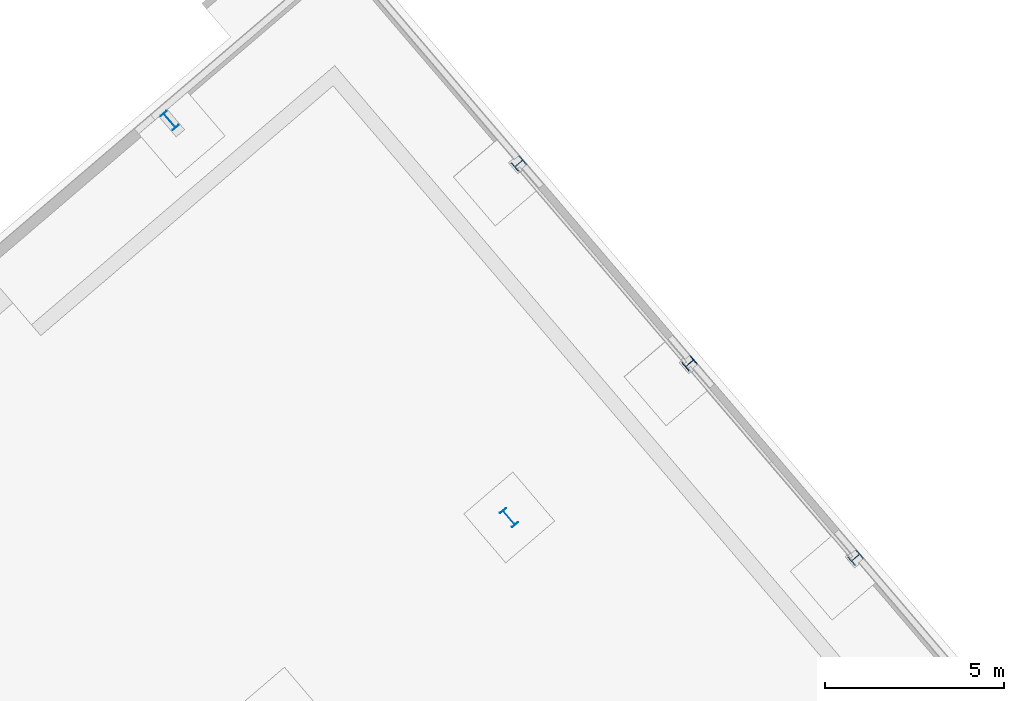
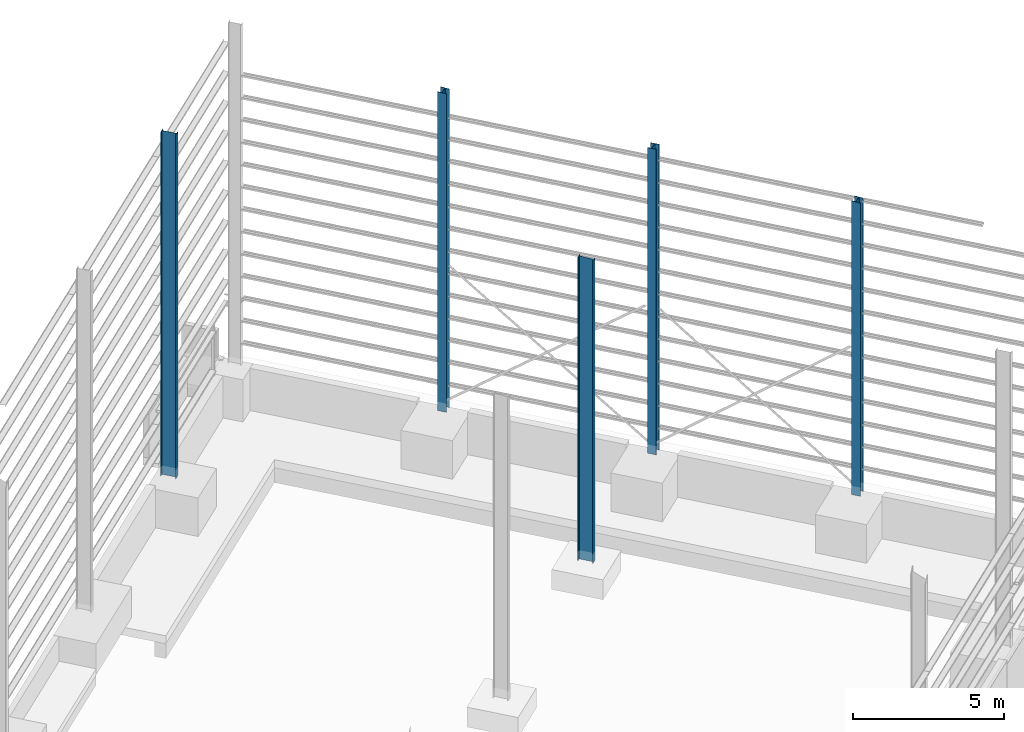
# One storey, part 10 of 41: 5 columns.
"""IFC2X3 building model written with IfcOpenShell, lengths in millimetres."""

from ifc_helpers import new_model, entity, si_unit, converted_unit, derived_unit, direction, frame, frame_2d, origin, origin_2d, place, context, subcontext, project, spatial, polyline, circle_curve, parameter, trimmed, segment, composite_curve, i_section, outline, extrude, clip, halfspace, source, transform, mapped, material, type_object, type_shapes, element, save


model = new_model("IFC2X3")

# Units and contexts
model_context = context("Model", 3, precision=0.01, world=origin(), true_north=direction((6.123031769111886e-17, 1.0)))
body_context = subcontext(model_context, "Body", "Model", "MODEL_VIEW")
ifc_project = project(units=[si_unit("LENGTHUNIT", "METRE", prefix="MILLI"), si_unit("AREAUNIT", "SQUARE_METRE"), si_unit("VOLUMEUNIT", "CUBIC_METRE"), converted_unit("PLANEANGLEUNIT", "DEGREE", entity("IfcRatioMeasure", 0.017453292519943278), si_unit("PLANEANGLEUNIT", "RADIAN"), dimensions=[0, 0, 0, 0, 0, 0, 0]), si_unit("MASSUNIT", "GRAM", prefix="KILO"), derived_unit("MASSDENSITYUNIT", [(si_unit("MASSUNIT", "GRAM", prefix="KILO"), 1), (si_unit("LENGTHUNIT", "METRE"), -3)]), derived_unit("MOMENTOFINERTIAUNIT", [(si_unit("LENGTHUNIT", "METRE"), 4)]), si_unit("TIMEUNIT", "SECOND"), si_unit("FREQUENCYUNIT", "HERTZ"), si_unit("THERMODYNAMICTEMPERATUREUNIT", "DEGREE_CELSIUS"), derived_unit("THERMALTRANSMITTANCEUNIT", [(si_unit("MASSUNIT", "GRAM", prefix="KILO"), 1), (si_unit("THERMODYNAMICTEMPERATUREUNIT", "KELVIN"), -1), (si_unit("TIMEUNIT", "SECOND"), -3)]), derived_unit("VOLUMETRICFLOWRATEUNIT", [(si_unit("LENGTHUNIT", "METRE"), 3), (si_unit("TIMEUNIT", "SECOND"), -1)]), derived_unit("MASSFLOWRATEUNIT", [(si_unit("MASSUNIT", "GRAM", prefix="KILO"), 1), (si_unit("TIMEUNIT", "SECOND"), -1)]), derived_unit("ROTATIONALFREQUENCYUNIT", [(si_unit("TIMEUNIT", "SECOND"), -1)]), si_unit("ELECTRICCURRENTUNIT", "AMPERE"), si_unit("ELECTRICVOLTAGEUNIT", "VOLT"), si_unit("POWERUNIT", "WATT"), si_unit("FORCEUNIT", "NEWTON", prefix="KILO"), si_unit("ILLUMINANCEUNIT", "LUX"), si_unit("LUMINOUSFLUXUNIT", "LUMEN"), si_unit("LUMINOUSINTENSITYUNIT", "CANDELA"), derived_unit("USERDEFINED", [(si_unit("MASSUNIT", "GRAM", prefix="KILO"), -1), (si_unit("LENGTHUNIT", "METRE"), -2), (si_unit("TIMEUNIT", "SECOND"), 3), (si_unit("LUMINOUSFLUXUNIT", "LUMEN"), 1)]), derived_unit("SOUNDPOWERUNIT", [(si_unit("MASSUNIT", "GRAM", prefix="KILO"), 1), (si_unit("LENGTHUNIT", "METRE"), 2), (si_unit("TIMEUNIT", "SECOND"), -3)]), derived_unit("LINEARVELOCITYUNIT", [(si_unit("LENGTHUNIT", "METRE"), 1), (si_unit("TIMEUNIT", "SECOND"), -1)]), si_unit("PRESSUREUNIT", "PASCAL"), derived_unit("USERDEFINED", [(si_unit("LENGTHUNIT", "METRE"), -2), (si_unit("MASSUNIT", "GRAM", prefix="KILO"), 1), (si_unit("TIMEUNIT", "SECOND"), -2)]), derived_unit("LINEARFORCEUNIT", [(si_unit("MASSUNIT", "GRAM", prefix="KILO"), 1), (si_unit("LENGTHUNIT", "METRE"), 1), (si_unit("TIMEUNIT", "SECOND"), -2), (si_unit("LENGTHUNIT", "METRE"), -1)]), derived_unit("PLANARFORCEUNIT", [(si_unit("MASSUNIT", "GRAM", prefix="KILO"), 1), (si_unit("LENGTHUNIT", "METRE"), 1), (si_unit("TIMEUNIT", "SECOND"), -2), (si_unit("LENGTHUNIT", "METRE"), -2)])], contexts=[model_context])

# Site, building, storey
site_placement = place(None, frame((962.4174930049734, -6014.433753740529, 0.0), z_axis=(0.0, 0.0, 1.0), x_axis=(0.7601792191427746, 0.649713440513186, 0.0)))
site = spatial("IfcSite", under=ifc_project, at=site_placement, Name="Default", CompositionType="ELEMENT")
building_placement = place(site_placement, origin())
building = spatial("IfcBuilding", under=site, at=building_placement, CompositionType="ELEMENT")
storey_placement = place(building_placement, origin())
storey = spatial("IfcBuildingStorey", under=building, at=storey_placement, Name="Datum", CompositionType="ELEMENT", Elevation=0.0)

# Columns
ifc_material = material(Name="Metal - Steel - 300 MPa")
column_type_1 = type_object("IfcColumnType", Name="ADSK_AU_UB-Universal Beams-Column (AS 3679_1):530UB92.4", PredefinedType="COLUMN", material=ifc_material)
shared_shape_1 = source(origin(), body_context, "Body", "SweptSolid", [
    clip(extrude(outline(composite_curve([segment(polyline([(250.899999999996, -104.49999999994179), (266.49999999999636, -104.49999999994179)]), True, "CONTINUOUS"), segment(polyline([(266.49999999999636, -104.49999999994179), (266.49999999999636, 104.50000000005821)]), True, "CONTINUOUS"), segment(polyline([(266.49999999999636, 104.5000000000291), (250.899999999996, 104.5000000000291)]), True, "CONTINUOUS"), segment(polyline([(250.899999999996, 104.5000000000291), (250.899999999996, 19.100000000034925)]), True, "CONTINUOUS"), segment(trimmed(circle_curve(frame_2d((236.90000000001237, 19.100000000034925), x_axis=(1.0, 0.0)), 13.999999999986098), [parameter(269.99999999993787)], [parameter(0.0)], True, "PARAMETER"), False, "CONTINUOUS"), segment(polyline([(236.89999999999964, 5.100000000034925), (-236.90000000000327, 5.100000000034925)]), True, "CONTINUOUS"), segment(trimmed(circle_curve(frame_2d((-236.90000000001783, 19.100000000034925), x_axis=(0.0, -1.0)), 13.999999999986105), [parameter(269.99999999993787)], [parameter(0.0)], True, "PARAMETER"), False, "CONTINUOUS"), segment(polyline([(-250.90000000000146, 19.100000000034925), (-250.90000000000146, 104.5000000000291)]), True, "CONTINUOUS"), segment(polyline([(-250.89999999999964, 104.5000000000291), (-266.50000000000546, 104.5000000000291)]), True, "CONTINUOUS"), segment(polyline([(-266.50000000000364, 104.5000000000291), (-266.50000000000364, -104.4999999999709)]), True, "CONTINUOUS"), segment(polyline([(-266.50000000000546, -104.49999999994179), (-250.89999999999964, -104.49999999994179)]), True, "CONTINUOUS"), segment(polyline([(-250.90000000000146, -104.49999999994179), (-250.90000000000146, -19.099999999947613)]), True, "CONTINUOUS"), segment(trimmed(circle_curve(frame_2d((-236.90000000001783, -19.099999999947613), x_axis=(-1.0, 0.0)), 13.999999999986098), [parameter(269.99999999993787)], [parameter(0.0)], True, "PARAMETER"), False, "CONTINUOUS"), segment(polyline([(-236.90000000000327, -5.099999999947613), (236.89999999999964, -5.099999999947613)]), True, "CONTINUOUS"), segment(trimmed(circle_curve(frame_2d((236.90000000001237, -19.099999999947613), x_axis=(0.0, 1.0)), 13.999999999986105), [parameter(269.99999999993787)], [parameter(0.0)], True, "PARAMETER"), False, "CONTINUOUS"), segment(polyline([(250.899999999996, -19.099999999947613), (250.899999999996, -104.49999999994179)]), True, "CONTINUOUS")], self_intersect=False)), frame((179138.96020470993, -11221.928082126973, -350.0), z_axis=(0.0, 0.0, 1.0), x_axis=(0.0, -1.0, 0.0)), (0.0, 0.0, 1.0), 12223.952039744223), halfspace(frame((166788.96020470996, -10955.428082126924, 11873.952039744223), z_axis=(0.0, -0.06975647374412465, 0.9975640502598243), x_axis=(1.0, 0.0, 0.0)), False)),
])
type_shapes(column_type_1, [shared_shape_1])
column_1_placement = place(building_placement, origin())
element("IfcColumn", 1, at=column_1_placement, inside=storey, type_object=column_type_1, material=ifc_material, Name="ADSK_AU_UB-Universal Beams-Column (AS 3679_1):530UB92.4", ObjectType="ADSK_AU_UB-Universal Beams-Column (AS 3679_1):530UB92.4", context=body_context, shape_type="MappedRepresentation", body=[
    mapped(shared_shape_1, transform((0.0, 0.0, 0.0), scale=1.0)),
])
column_type_2 = type_object("IfcColumnType", Name="ADSK_AU_UC-Universal Columns-Column (AS 3679_1):310UC118", PredefinedType="COLUMN", material=ifc_material)
shared_shape_2 = source(origin(), body_context, "Body", "SweptSolid", [
    extrude(i_section(OverallWidth=306.9999999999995, OverallDepth=314.60000000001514, WebThickness=11.900000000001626, FlangeThickness=18.699999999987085, FilletRadius=16.50000000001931, at=frame_2d((-2.1742607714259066e-12, -3.466027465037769e-11), x_axis=(1.0, 0.0))), frame((185784.26020470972, -11221.928082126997, -350.0), z_axis=(0.0, 0.0, 1.0), x_axis=(0.0, -1.0, 0.0)), (0.0, 0.0, 1.0), 12320.48948112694),
])
type_shapes(column_type_2, [shared_shape_2])
column_2_placement = place(building_placement, origin())
element("IfcColumn", 2, at=column_2_placement, inside=storey, type_object=column_type_2, material=ifc_material, Name="ADSK_AU_UC-Universal Columns-Column (AS 3679_1):310UC118", ObjectType="ADSK_AU_UC-Universal Columns-Column (AS 3679_1):310UC118", context=body_context, shape_type="MappedRepresentation", body=[
    mapped(shared_shape_2, transform((0.0, 0.0, 0.0), scale=1.0)),
])
column_type_3 = type_object("IfcColumnType", Name="ADSK_AU_UC-Universal Columns-Column (AS 3679_1):310UC118", PredefinedType="COLUMN", material=ifc_material)
shared_shape_3 = source(origin(), body_context, "Body", "SweptSolid", [
    clip(extrude(i_section(OverallWidth=307.00000000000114, OverallDepth=314.60000000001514, WebThickness=11.900000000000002, FlangeThickness=18.699999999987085, FilletRadius=16.50000000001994, at=frame_2d((-2.7000623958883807e-13, -3.466027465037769e-11), x_axis=(1.0, 0.0))), frame((185784.26020470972, -3867.590582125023, -350.0), z_axis=(0.0, 0.0, 1.0), x_axis=(0.0, -1.0, 0.0)), (0.0, 0.0, 1.0), 12856.222387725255), halfspace(frame((198734.2602047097, -4021.090582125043, 12484.754856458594), z_axis=(0.0, -0.06975647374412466, 0.9975640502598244), x_axis=(-1.0, 0.0, 0.0)), False)),
])
type_shapes(column_type_3, [shared_shape_3])
column_3_placement = place(building_placement, origin())
element("IfcColumn", 3, at=column_3_placement, inside=storey, type_object=column_type_3, material=ifc_material, Name="ADSK_AU_UC-Universal Columns-Column (AS 3679_1):310UC118", ObjectType="ADSK_AU_UC-Universal Columns-Column (AS 3679_1):310UC118", context=body_context, shape_type="MappedRepresentation", body=[
    mapped(shared_shape_3, transform((0.0, 0.0, 0.0), scale=1.0)),
])
column_type_4 = type_object("IfcColumnType", Name="ADSK_AU_UC-Universal Columns-Column (AS 3679_1):310UC118", PredefinedType="COLUMN", material=ifc_material)
shared_shape_4 = source(origin(), body_context, "Body", "SweptSolid", [
    clip(extrude(i_section(OverallWidth=307.0000000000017, OverallDepth=314.60000000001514, WebThickness=11.900000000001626, FlangeThickness=18.699999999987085, FilletRadius=16.50000000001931, at=frame_2d((1.0942358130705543e-12, -3.466027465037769e-11), x_axis=(1.0, 0.0))), frame((185784.26020470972, -18370.81558212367, -350.0), z_axis=(0.0, 0.0, 1.0), x_axis=(0.0, -1.0, 0.0)), (0.0, 0.0, 1.0), 11842.058100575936), halfspace(frame((197634.2602047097, -18524.31558212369, 11470.590569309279), z_axis=(0.0, -0.06975647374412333, 0.9975640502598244), x_axis=(-1.0, 0.0, 0.0)), False)),
])
type_shapes(column_type_4, [shared_shape_4])
column_4_placement = place(building_placement, origin())
element("IfcColumn", 4, at=column_4_placement, inside=storey, type_object=column_type_4, material=ifc_material, Name="ADSK_AU_UC-Universal Columns-Column (AS 3679_1):310UC118", ObjectType="ADSK_AU_UC-Universal Columns-Column (AS 3679_1):310UC118", context=body_context, shape_type="MappedRepresentation", body=[
    mapped(shared_shape_4, transform((0.0, 0.0, 0.0), scale=1.0)),
])
column_type_5 = type_object("IfcColumnType", Name="ADSK_AU_UB-Universal Beams-Column (AS 3679_1):530UB92.4", PredefinedType="COLUMN", material=ifc_material)
column_5_placement = place(building_placement, frame((179138.96020471, 3392.571917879, 13510.0)))
element("IfcColumn", 5, at=column_5_placement, inside=storey, type_object=column_type_5, material=ifc_material, Name="ADSK_AU_UB-Universal Beams-Column (AS 3679_1):530UB92.4", ObjectType="530UB92.4", context=model_context, shape_type="SweptSolid", body=[
    extrude(i_section(OverallWidth=209.0, OverallDepth=533.0, WebThickness=10.2, FlangeThickness=15.6, FilletRadius=14.0, at=origin_2d()), origin(), (0.0, 0.0, -1.0), 13860.0),
])

save(model, "model.ifc")
